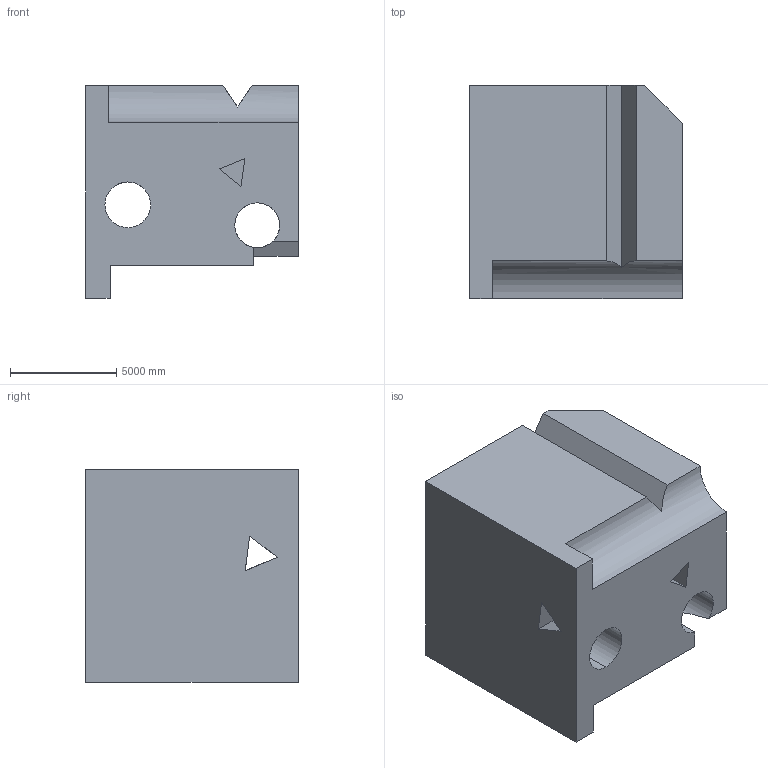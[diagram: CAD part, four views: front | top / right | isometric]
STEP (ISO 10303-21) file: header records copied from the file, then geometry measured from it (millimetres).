
FILE_DESCRIPTION (( 'STEP AP203' ), '1' );
FILE_NAME ('995.STEP', '2022-07-29T15:03:58', ( 'user' ), ( '' ), 'SwSTEP 2.0', 'SolidWorks 2021', '' );
FILE_SCHEMA (( 'CONFIG_CONTROL_DESIGN' ));
Length unit declared in the file: centimetre
Products named in the file (1): 995
Bounding box: 10000 x 10000 x 10000 mm (x, y, z)
Volume: 687102772527.6 mm3; surface area: 749888591.2 mm2
Topology: 1 solids, 1 shells, 36 faces, 112 edges, 74 vertices
Faces by surface type: plane 31, cylinder 5
Entity records: 1327 total; most frequent: CARTESIAN_POINT 259, ORIENTED_EDGE 224, DIRECTION 184, EDGE_CURVE 112, LINE 90, VECTOR 90, VERTEX_POINT 74, AXIS2_PLACEMENT_3D 47
